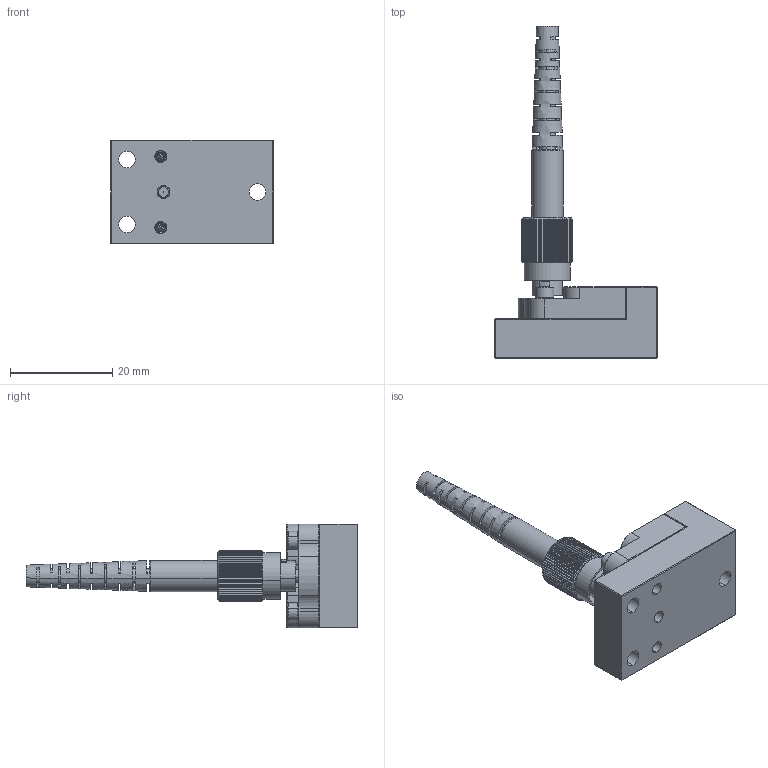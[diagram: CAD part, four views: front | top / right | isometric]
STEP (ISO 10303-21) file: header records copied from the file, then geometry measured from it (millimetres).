
FILE_DESCRIPTION (( 'STEP AP214' ), '1' );
FILE_NAME ('10505255-1.STEP', '2019-07-24T15:32:48', ( '' ), ( '' ), 'SwSTEP 2.0', 'SolidWorks 2019', '' );
FILE_SCHEMA (( 'AUTOMOTIVE_DESIGN' ));
Length unit declared in the file: inch
Products named in the file (8): FCPC_end; 10505256-1; 10505254-1; 10505257-1; MCM_91732A201_91732A201; MCM_93465A078_93465A078; 10505255-1; ADAF1_modified
Assembly tree (9 placements, depth 2):
  10505255-1
    10505254-1
    ADAF1_modified
    FCPC_end
    10505256-1
    MCM_91732A201_91732A201  x2
    10505257-1
    MCM_93465A078_93465A078  x2
Bounding box: 31.75 x 65.01 x 20.32 mm (x, y, z)
Volume: 7539.1 mm3; surface area: 8870.8 mm2
Topology: 15 solids, 15 shells, 834 faces, 2227 edges, 1428 vertices
Faces by surface type: plane 367, cylinder 323, cone 124, bspline 20
Entity records: 32372 total; most frequent: CARTESIAN_POINT 9812, ORIENTED_EDGE 3794, DIRECTION 3393, EDGE_CURVE 1897, AXIS2_PLACEMENT_3D 1301, VERTEX_POINT 1215, VECTOR 791, LINE 791
